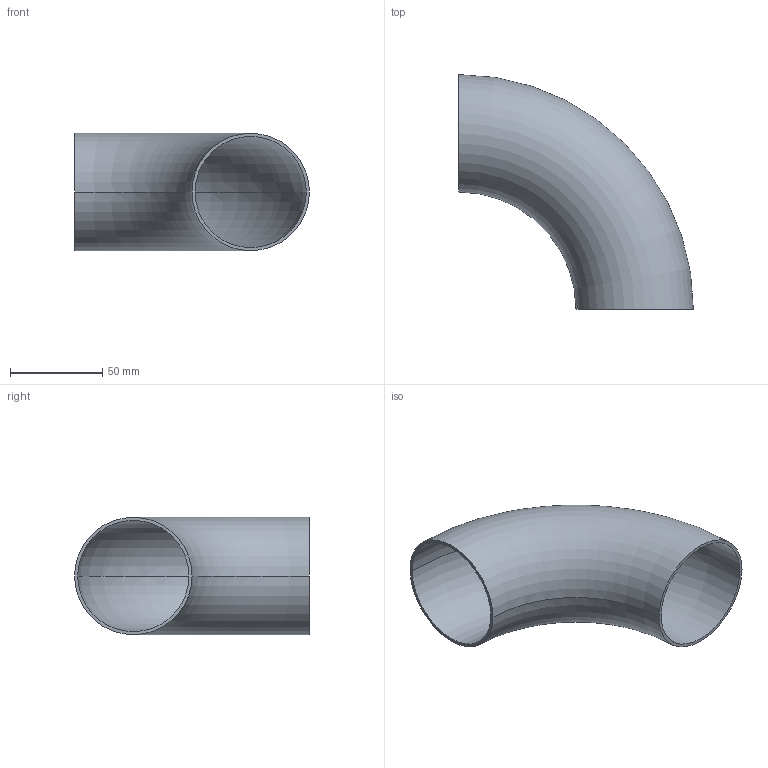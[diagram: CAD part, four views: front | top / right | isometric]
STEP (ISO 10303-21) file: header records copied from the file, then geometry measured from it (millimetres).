
FILE_DESCRIPTION (( 'STEP AP203' ), '1' );
FILE_NAME ('2WCL2.5.STEP', '2018-04-30T15:23:12', ( 'vneprd' ), ( 'Microsoft' ), 'SwSTEP 2.0', 'SolidWorks 2014', '' );
FILE_SCHEMA (( 'CONFIG_CONTROL_DESIGN' ));
Length unit declared in the file: inch
Products named in the file (1): 2WCL2.5
Bounding box: 127 x 127 x 63.5 mm (x, y, z)
Volume: 47997 mm3; surface area: 58784.6 mm2
Topology: 1 solids, 1 shells, 6 faces, 12 edges, 8 vertices
Faces by surface type: torus 4, plane 2
Entity records: 251 total; most frequent: DIRECTION 38, CARTESIAN_POINT 27, ORIENTED_EDGE 24, AXIS2_PLACEMENT_3D 19, CIRCLE 12, EDGE_CURVE 12, EDGE_LOOP 8, PERSON_AND_ORGANIZATION 8
